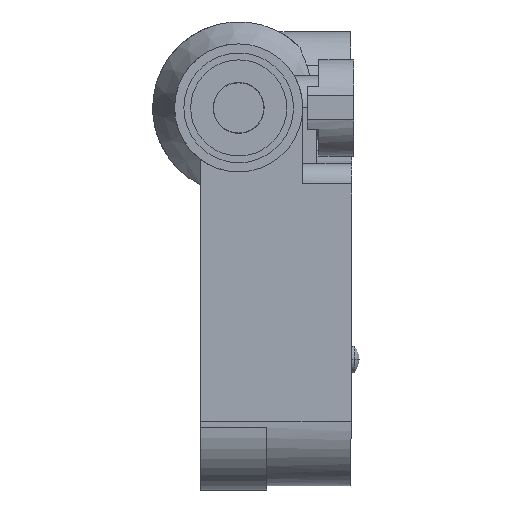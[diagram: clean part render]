
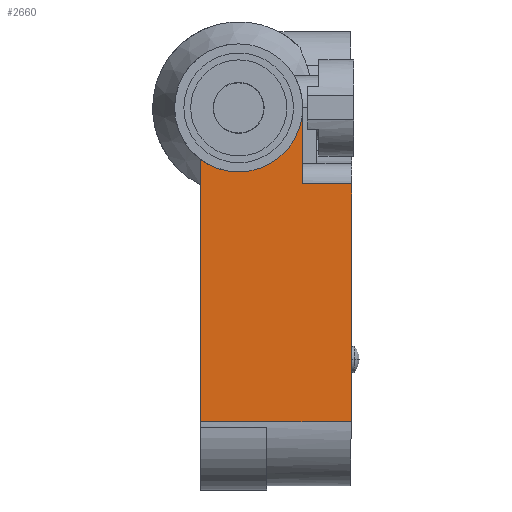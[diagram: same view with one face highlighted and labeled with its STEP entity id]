
A CAD part, left-side view. The second image highlights one B-rep face of the part: STEP entity #2660.
In plain terms, the highlighted planar face has unit normal (-1, 0, 0).
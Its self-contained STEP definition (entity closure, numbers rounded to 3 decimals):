
#1740=CARTESIAN_POINT('',(31.78,-6.437,
-4.75));
#1750=VERTEX_POINT('',#1740);
#1780=CARTESIAN_POINT('',(31.78,0.,
-4.75));
#1790=DIRECTION('',(0.,1.,0.));
#1800=VECTOR('',#1790,1.);
#1810=LINE('',#1780,#1800);
#1820=CARTESIAN_POINT('',(31.78,-39.207,
-4.75));
#1830=VERTEX_POINT('',#1820);
#1840=EDGE_CURVE('',#1830,#1750,#1810,.T.);
#2140=CARTESIAN_POINT('',(31.78,-36.126,-3.5));
#2150=DIRECTION('',(-1.,0.,0.));
#2160=DIRECTION('',(0.,-1.,0.));
#2170=AXIS2_PLACEMENT_3D('',#2140,#2150,#2160);
#2180=PLANE('',#2170);
#2190=CARTESIAN_POINT('',(31.78,-39.207,
-13.344));
#2200=DIRECTION('',(0.,0.,1.));
#2210=VECTOR('',#2200,1.);
#2220=LINE('',#2190,#2210);
#2230=CARTESIAN_POINT('',(31.78,-39.207,
14.047));
#2240=VERTEX_POINT('',#2230);
#2250=EDGE_CURVE('',#1830,#2240,#2220,.T.);
#2260=ORIENTED_EDGE('',*,*,#2250,.T.);
#2270=ORIENTED_EDGE('',*,*,#1840,.F.);
#2280=CARTESIAN_POINT('',(31.78,0.,0.));
#2290=DIRECTION('',(-1.,0.,0.));
#2300=DIRECTION('',(0.,-1.,0.));
#2310=AXIS2_PLACEMENT_3D('',#2280,#2290,#2300);
#2320=CIRCLE('',#2310,8.);
#2330=CARTESIAN_POINT('',(31.78,-8.,0.));
#2340=VERTEX_POINT('',#2330);
#2350=EDGE_CURVE('',#1750,#2340,#2320,.T.);
#2360=ORIENTED_EDGE('',*,*,#2350,.F.);
#2370=CARTESIAN_POINT('',(31.78,0.,8.));
#2380=VERTEX_POINT('',#2370);
#2390=EDGE_CURVE('',#2340,#2380,#2320,.T.);
#2400=ORIENTED_EDGE('',*,*,#2390,.F.);
#2410=CARTESIAN_POINT('',(31.78,0.,
8.));
#2420=DIRECTION('',(0.,-1.,0.));
#2430=VECTOR('',#2420,1.);
#2440=LINE('',#2410,#2430);
#2450=CARTESIAN_POINT('',(31.78,-9.5,
8.));
#2460=VERTEX_POINT('',#2450);
#2470=EDGE_CURVE('',#2380,#2460,#2440,.T.);
#2480=ORIENTED_EDGE('',*,*,#2470,.F.);
#2490=CARTESIAN_POINT('',(31.78,-9.5,11.5));
#2500=DIRECTION('',(0.,0.,-1.));
#2510=VECTOR('',#2500,1.);
#2520=LINE('',#2490,#2510);
#2530=CARTESIAN_POINT('',(31.78,-9.5,
14.128));
#2540=VERTEX_POINT('',#2530);
#2550=EDGE_CURVE('',#2540,#2460,#2520,.T.);
#2560=ORIENTED_EDGE('',*,*,#2550,.T.);
#2570=CARTESIAN_POINT('',(31.78,-18.9,-1985.85));
#2580=DIRECTION('',(1.,0.,0.));
#2590=DIRECTION('',(0.,1.,0.));
#2600=AXIS2_PLACEMENT_3D('',#2570,#2580,#2590);
#2610=CIRCLE('',#2600,2000.);
#2620=EDGE_CURVE('',#2540,#2240,#2610,.T.);
#2630=ORIENTED_EDGE('',*,*,#2620,.F.);
#2640=EDGE_LOOP('',(#2630,#2560,#2480,#2400,#2360,#2270,#2260));
#2650=FACE_OUTER_BOUND('',#2640,.T.);
#2660=ADVANCED_FACE('',(#2650),#2180,.T.);
